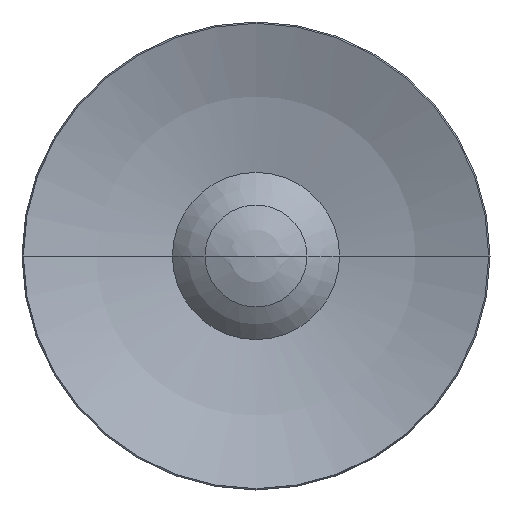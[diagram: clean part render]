
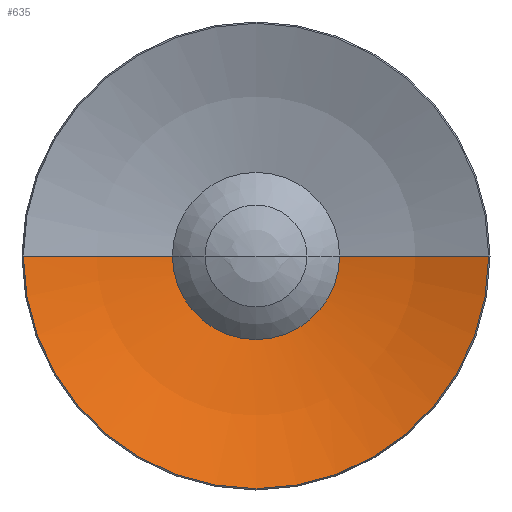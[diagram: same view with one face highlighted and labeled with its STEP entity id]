
A CAD part, front view. The second image highlights one B-rep face of the part: STEP entity #635.
In plain terms, the highlighted spherical face has radius 509.5 mm.
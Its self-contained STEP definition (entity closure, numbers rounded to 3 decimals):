
#490=CARTESIAN_POINT('',(0.,41.974,0.));
#491=DIRECTION('',(0.,1.,0.));
#492=DIRECTION('',(1.,0.,0.));
#493=AXIS2_PLACEMENT_3D('',#490,#491,#492);
#495=CARTESIAN_POINT('',(0.,-2.737,0.));
#496=DIRECTION('',(0.,-1.,0.));
#497=DIRECTION('',(-1.,0.,0.));
#498=AXIS2_PLACEMENT_3D('',#495,#496,#497);
#505=CARTESIAN_POINT('',(0.,-467.5,0.));
#506=DIRECTION('',(0.,0.,-1.));
#507=DIRECTION('',(-0.41,0.912,0.));
#508=AXIS2_PLACEMENT_3D('',#505,#506,#507);
#515=CARTESIAN_POINT('',(0.,-467.5,0.));
#516=DIRECTION('',(0.,0.,1.));
#517=DIRECTION('',(0.41,0.912,0.));
#518=AXIS2_PLACEMENT_3D('',#515,#516,#517);
#521=CARTESIAN_POINT('',(-208.771,-2.737,0.));
#523=VERTEX_POINT('',#521);
#525=CARTESIAN_POINT('',(208.771,-2.737,
0.));
#527=VERTEX_POINT('',#525);
#532=CARTESIAN_POINT('',(5.125,41.974,0.));
#533=CARTESIAN_POINT('',(-5.125,41.974,0.));
#534=VERTEX_POINT('',#532);
#535=VERTEX_POINT('',#533);
#622=CARTESIAN_POINT('',(0.,-467.5,0.));
#623=DIRECTION('',(0.,-1.,0.));
#624=DIRECTION('',(-1.,0.,0.));
#625=AXIS2_PLACEMENT_3D('',#622,#623,#624);
#626=SPHERICAL_SURFACE('',#625,509.5);
#627=ORIENTED_EDGE('',*,*,#560,.F.);
#629=ORIENTED_EDGE('',*,*,#628,.F.);
#630=ORIENTED_EDGE('',*,*,#615,.F.);
#632=ORIENTED_EDGE('',*,*,#631,.T.);
#633=EDGE_LOOP('',(#627,#629,#630,#632));
#634=FACE_OUTER_BOUND('',#633,.F.);
#635=ADVANCED_FACE('',(#634),#626,.F.);
#494=CIRCLE('',#493,5.125);
#499=CIRCLE('',#498,208.771);
#509=CIRCLE('',#508,509.5);
#519=CIRCLE('',#518,509.5);
#560=EDGE_CURVE('',#534,#535,#494,.T.);
#615=EDGE_CURVE('',#523,#527,#499,.T.);
#628=EDGE_CURVE('',#527,#534,#519,.T.);
#631=EDGE_CURVE('',#523,#535,#509,.T.);
